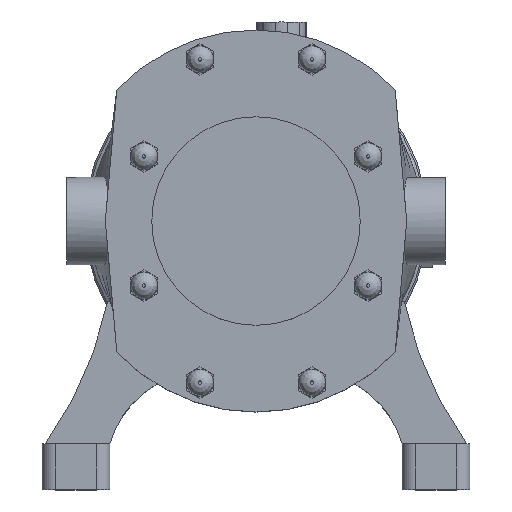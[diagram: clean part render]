
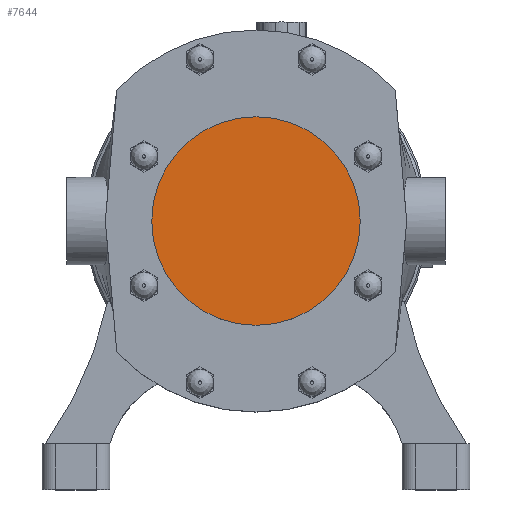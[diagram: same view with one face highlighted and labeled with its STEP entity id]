
A CAD part, top view. The second image highlights one B-rep face of the part: STEP entity #7644.
In plain terms, the highlighted planar face has unit normal (0, 0, 1).
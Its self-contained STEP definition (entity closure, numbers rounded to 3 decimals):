
#7628=CARTESIAN_POINT('',(0.0,0.0,6.));
#7629=DIRECTION('',(0.0,0.0,-1.0));
#7630=DIRECTION('',(-1.0,0.0,0.0));
#7631=AXIS2_PLACEMENT_3D('',#7628,#7629,#7630);
#7632=PLANE('',#7631);
#7633=CARTESIAN_POINT('',(61.4,0.,6.));
#7634=VERTEX_POINT('',#7633);
#7635=CARTESIAN_POINT('',(0.0,0.0,6.));
#7636=DIRECTION('',(0.0,0.0,-1.0));
#7637=DIRECTION('',(-1.0,0.0,0.0));
#7638=AXIS2_PLACEMENT_3D('',#7635,#7636,#7637);
#7639=CIRCLE('',#7638,61.4);
#7640=EDGE_CURVE('',#7634,#7634,#7639,.T.);
#7641=ORIENTED_EDGE('',*,*,#7640,.F.);
#7642=EDGE_LOOP('',(#7641));
#7643=FACE_OUTER_BOUND('',#7642,.T.);
#7644=ADVANCED_FACE('',(#7643),#7632,.F.);
